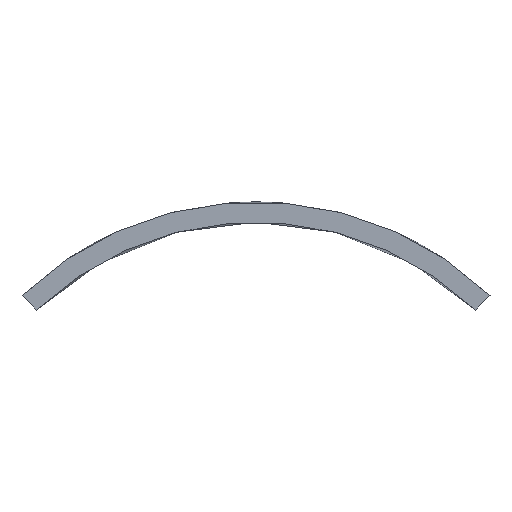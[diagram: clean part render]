
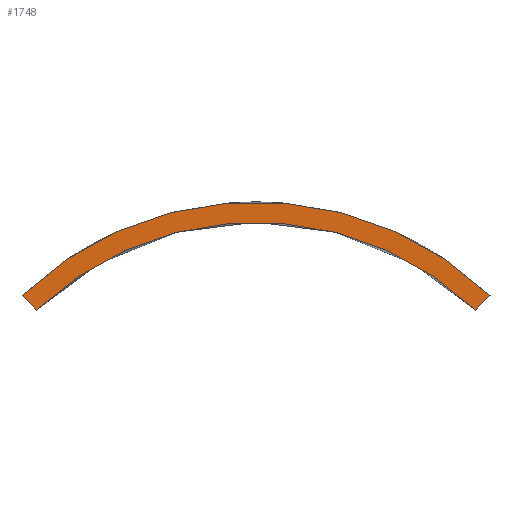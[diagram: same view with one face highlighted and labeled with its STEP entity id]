
A CAD part, left-side view. The second image highlights one B-rep face of the part: STEP entity #1748.
In plain terms, the highlighted planar face has unit normal (-1, 0, 0).
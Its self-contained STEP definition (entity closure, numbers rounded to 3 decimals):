
#21 = EDGE_CURVE('',#22,#24,#26,.T.);
#22 = VERTEX_POINT('',#23);
#23 = CARTESIAN_POINT('',(62.3,13.784,14.491));
#24 = VERTEX_POINT('',#25);
#25 = CARTESIAN_POINT('',(62.3,-13.784,14.491));
#26 = SURFACE_CURVE('',#27,(#32,#44),.PCURVE_S1.);
#27 = CIRCLE('',#28,20.);
#28 = AXIS2_PLACEMENT_3D('',#29,#30,#31);
#29 = CARTESIAN_POINT('',(62.3,0.,0.));
#30 = DIRECTION('',(1.,0.,0.));
#31 = DIRECTION('',(-0.,1.,0.));
#32 = PCURVE('',#33,#38);
#33 = CYLINDRICAL_SURFACE('',#34,20.);
#34 = AXIS2_PLACEMENT_3D('',#35,#36,#37);
#35 = CARTESIAN_POINT('',(42.,0.,0.));
#36 = DIRECTION('',(1.,0.,0.));
#37 = DIRECTION('',(-0.,1.,0.));
#38 = DEFINITIONAL_REPRESENTATION('',(#39),#43);
#39 = LINE('',#40,#41);
#40 = CARTESIAN_POINT('',(0.,20.3));
#41 = VECTOR('',#42,1.);
#42 = DIRECTION('',(1.,0.));
#43 = ( GEOMETRIC_REPRESENTATION_CONTEXT(2) 
PARAMETRIC_REPRESENTATION_CONTEXT() REPRESENTATION_CONTEXT('2D SPACE',''
  ) );
#44 = PCURVE('',#45,#50);
#45 = PLANE('',#46);
#46 = AXIS2_PLACEMENT_3D('',#47,#48,#49);
#47 = CARTESIAN_POINT('',(62.3,0.,0.));
#48 = DIRECTION('',(-1.,0.,0.));
#49 = DIRECTION('',(0.,-0.689,0.725));
#50 = DEFINITIONAL_REPRESENTATION('',(#51),#59);
#51 = ( BOUNDED_CURVE() B_SPLINE_CURVE(2,(#52,#53,#54,#55,#56,#57,#58),
.UNSPECIFIED.,.T.,.F.) B_SPLINE_CURVE_WITH_KNOTS((1,2,2,2,2,1),(
    -2.094,0.,2.094,4.189,6.283,
8.378),.UNSPECIFIED.) CURVE() GEOMETRIC_REPRESENTATION_ITEM() 
RATIONAL_B_SPLINE_CURVE((1.,0.5,1.,0.5,1.,0.5,1.)) REPRESENTATION_ITEM(
  '') );
#52 = CARTESIAN_POINT('',(-13.784,14.491));
#53 = CARTESIAN_POINT('',(11.315,38.366));
#54 = CARTESIAN_POINT('',(19.442,4.692));
#55 = CARTESIAN_POINT('',(27.568,-28.982));
#56 = CARTESIAN_POINT('',(-5.658,-19.183));
#57 = CARTESIAN_POINT('',(-38.884,-9.384));
#58 = CARTESIAN_POINT('',(-13.784,14.491));
#59 = ( GEOMETRIC_REPRESENTATION_CONTEXT(2) 
PARAMETRIC_REPRESENTATION_CONTEXT() REPRESENTATION_CONTEXT('2D SPACE',''
  ) );
#77 = PLANE('',#78);
#78 = AXIS2_PLACEMENT_3D('',#79,#80,#81);
#79 = CARTESIAN_POINT('',(194.,0.,0.));
#80 = DIRECTION('',(-0.,0.725,0.689));
#81 = DIRECTION('',(0.,-0.689,0.725));
#372 = PLANE('',#373);
#373 = AXIS2_PLACEMENT_3D('',#374,#375,#376);
#374 = CARTESIAN_POINT('',(194.,17.919,18.839));
#375 = DIRECTION('',(0.,-0.725,0.689));
#376 = DIRECTION('',(0.,-0.689,-0.725));
#387 = EDGE_CURVE('',#22,#388,#390,.T.);
#388 = VERTEX_POINT('',#389);
#389 = CARTESIAN_POINT('',(62.3,12.957,13.622));
#390 = SURFACE_CURVE('',#391,(#395,#402),.PCURVE_S1.);
#391 = LINE('',#392,#393);
#392 = CARTESIAN_POINT('',(62.3,17.919,18.839));
#393 = VECTOR('',#394,1.);
#394 = DIRECTION('',(0.,-0.689,-0.725));
#395 = PCURVE('',#372,#396);
#396 = DEFINITIONAL_REPRESENTATION('',(#397),#401);
#397 = LINE('',#398,#399);
#398 = CARTESIAN_POINT('',(-0.,-131.7));
#399 = VECTOR('',#400,1.);
#400 = DIRECTION('',(1.,0.));
#401 = ( GEOMETRIC_REPRESENTATION_CONTEXT(2) 
PARAMETRIC_REPRESENTATION_CONTEXT() REPRESENTATION_CONTEXT('2D SPACE',''
  ) );
#402 = PCURVE('',#45,#403);
#403 = DEFINITIONAL_REPRESENTATION('',(#404),#408);
#404 = LINE('',#405,#406);
#405 = CARTESIAN_POINT('',(1.299,25.968));
#406 = VECTOR('',#407,1.);
#407 = DIRECTION('',(-0.05,-0.999));
#408 = ( GEOMETRIC_REPRESENTATION_CONTEXT(2) 
PARAMETRIC_REPRESENTATION_CONTEXT() REPRESENTATION_CONTEXT('2D SPACE',''
  ) );
#426 = CYLINDRICAL_SURFACE('',#427,18.8);
#427 = AXIS2_PLACEMENT_3D('',#428,#429,#430);
#428 = CARTESIAN_POINT('',(42.,0.,0.));
#429 = DIRECTION('',(1.,0.,0.));
#430 = DIRECTION('',(-0.,1.,0.));
#463 = EDGE_CURVE('',#388,#464,#466,.T.);
#464 = VERTEX_POINT('',#465);
#465 = CARTESIAN_POINT('',(62.3,-12.957,13.622));
#466 = SURFACE_CURVE('',#467,(#472,#479),.PCURVE_S1.);
#467 = CIRCLE('',#468,18.8);
#468 = AXIS2_PLACEMENT_3D('',#469,#470,#471);
#469 = CARTESIAN_POINT('',(62.3,0.,0.));
#470 = DIRECTION('',(1.,0.,0.));
#471 = DIRECTION('',(-0.,1.,0.));
#472 = PCURVE('',#426,#473);
#473 = DEFINITIONAL_REPRESENTATION('',(#474),#478);
#474 = LINE('',#475,#476);
#475 = CARTESIAN_POINT('',(0.,20.3));
#476 = VECTOR('',#477,1.);
#477 = DIRECTION('',(1.,0.));
#478 = ( GEOMETRIC_REPRESENTATION_CONTEXT(2) 
PARAMETRIC_REPRESENTATION_CONTEXT() REPRESENTATION_CONTEXT('2D SPACE',''
  ) );
#479 = PCURVE('',#45,#480);
#480 = DEFINITIONAL_REPRESENTATION('',(#481),#489);
#481 = ( BOUNDED_CURVE() B_SPLINE_CURVE(2,(#482,#483,#484,#485,#486,#487
,#488),.UNSPECIFIED.,.T.,.F.) B_SPLINE_CURVE_WITH_KNOTS((1,2,2,2,2,1),(
    -2.094,0.,2.094,4.189,6.283,
8.378),.UNSPECIFIED.) CURVE() GEOMETRIC_REPRESENTATION_ITEM() 
RATIONAL_B_SPLINE_CURVE((1.,0.5,1.,0.5,1.,0.5,1.)) REPRESENTATION_ITEM(
  '') );
#482 = CARTESIAN_POINT('',(-12.957,13.622));
#483 = CARTESIAN_POINT('',(10.636,36.064));
#484 = CARTESIAN_POINT('',(18.275,4.41));
#485 = CARTESIAN_POINT('',(25.914,-27.244));
#486 = CARTESIAN_POINT('',(-5.318,-18.032));
#487 = CARTESIAN_POINT('',(-36.551,-8.821));
#488 = CARTESIAN_POINT('',(-12.957,13.622));
#489 = ( GEOMETRIC_REPRESENTATION_CONTEXT(2) 
PARAMETRIC_REPRESENTATION_CONTEXT() REPRESENTATION_CONTEXT('2D SPACE',''
  ) );
#1726 = EDGE_CURVE('',#464,#24,#1727,.T.);
#1727 = SURFACE_CURVE('',#1728,(#1732,#1739),.PCURVE_S1.);
#1728 = LINE('',#1729,#1730);
#1729 = CARTESIAN_POINT('',(62.3,0.,0.));
#1730 = VECTOR('',#1731,1.);
#1731 = DIRECTION('',(0.,-0.689,0.725));
#1732 = PCURVE('',#77,#1733);
#1733 = DEFINITIONAL_REPRESENTATION('',(#1734),#1738);
#1734 = LINE('',#1735,#1736);
#1735 = CARTESIAN_POINT('',(0.,-131.7));
#1736 = VECTOR('',#1737,1.);
#1737 = DIRECTION('',(1.,0.));
#1738 = ( GEOMETRIC_REPRESENTATION_CONTEXT(2) 
PARAMETRIC_REPRESENTATION_CONTEXT() REPRESENTATION_CONTEXT('2D SPACE',''
  ) );
#1739 = PCURVE('',#45,#1740);
#1740 = DEFINITIONAL_REPRESENTATION('',(#1741),#1745);
#1741 = LINE('',#1742,#1743);
#1742 = CARTESIAN_POINT('',(0.,0.));
#1743 = VECTOR('',#1744,1.);
#1744 = DIRECTION('',(1.,0.));
#1745 = ( GEOMETRIC_REPRESENTATION_CONTEXT(2) 
PARAMETRIC_REPRESENTATION_CONTEXT() REPRESENTATION_CONTEXT('2D SPACE',''
  ) );
#1748 = ADVANCED_FACE('',(#1749),#45,.T.);
#1749 = FACE_BOUND('',#1750,.T.);
#1750 = EDGE_LOOP('',(#1751,#1752,#1753,#1754));
#1751 = ORIENTED_EDGE('',*,*,#463,.T.);
#1752 = ORIENTED_EDGE('',*,*,#1726,.T.);
#1753 = ORIENTED_EDGE('',*,*,#21,.F.);
#1754 = ORIENTED_EDGE('',*,*,#387,.T.);
